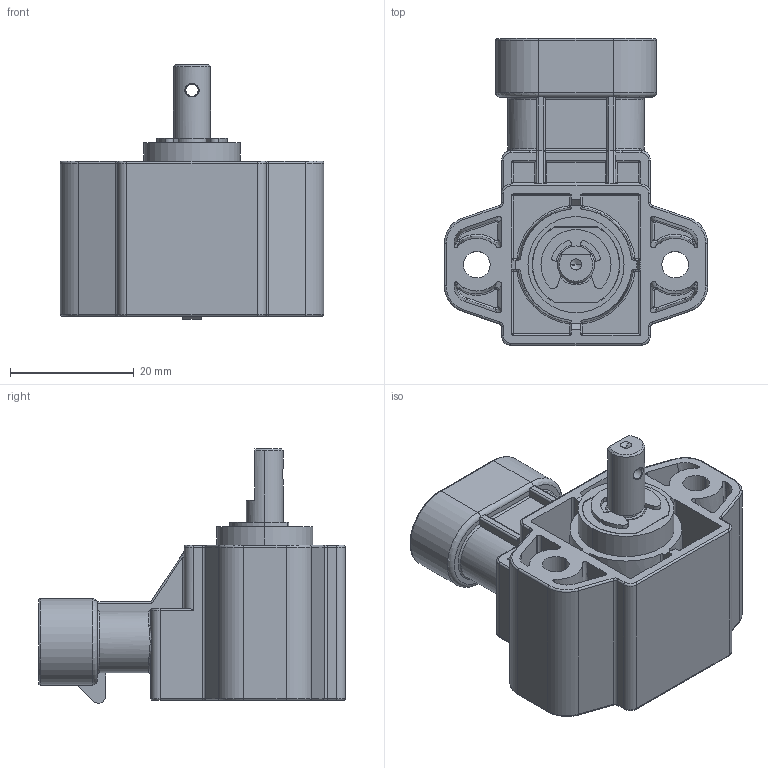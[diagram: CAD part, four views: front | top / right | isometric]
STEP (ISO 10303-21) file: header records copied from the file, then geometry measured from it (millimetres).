
FILE_DESCRIPTION (( 'STEP AP203' ), '1' );
FILE_NAME ('GR3PA S3H1SL xxx xxxx X0.STEP', '2024-12-19T14:49:30', ( '' ), ( '' ), 'SwSTEP 2.0', 'SolidWorks 2024', '' );
FILE_SCHEMA (( 'CONFIG_CONTROL_DESIGN' ));
Length unit declared in the file: millimetre
Products named in the file (1): GR3PA S3H1SL xxx xxxx X0
Bounding box: 42.5 x 49.5 x 41.07 mm (x, y, z)
Volume: 22551.3 mm3; surface area: 13047.2 mm2
Topology: 7 solids, 7 shells, 640 faces, 1533 edges, 913 vertices
Faces by surface type: cylinder 217, plane 205, bspline 83, torus 64, sphere 39, cone 32
Entity records: 21814 total; most frequent: CARTESIAN_POINT 7492, ORIENTED_EDGE 3018, DIRECTION 2939, EDGE_CURVE 1509, AXIS2_PLACEMENT_3D 1125, VERTEX_POINT 913, VECTOR 689, LINE 689
